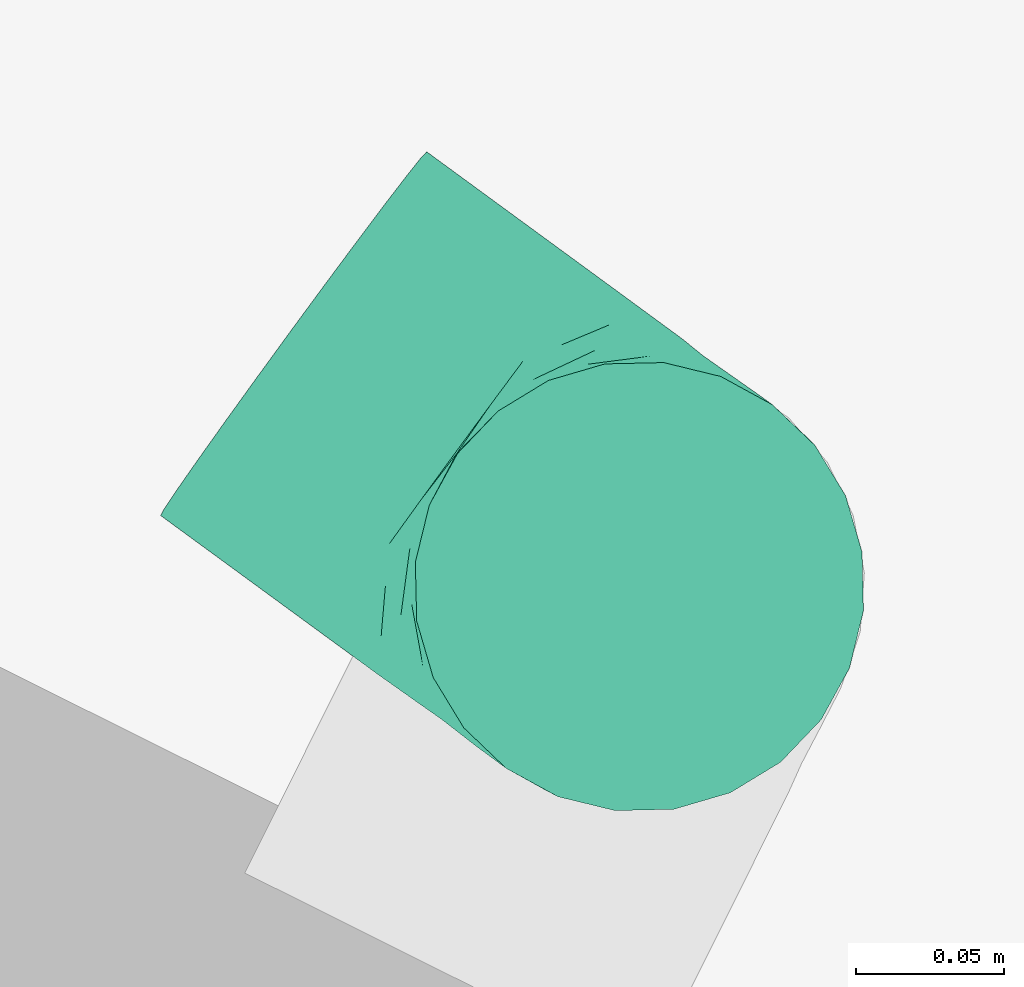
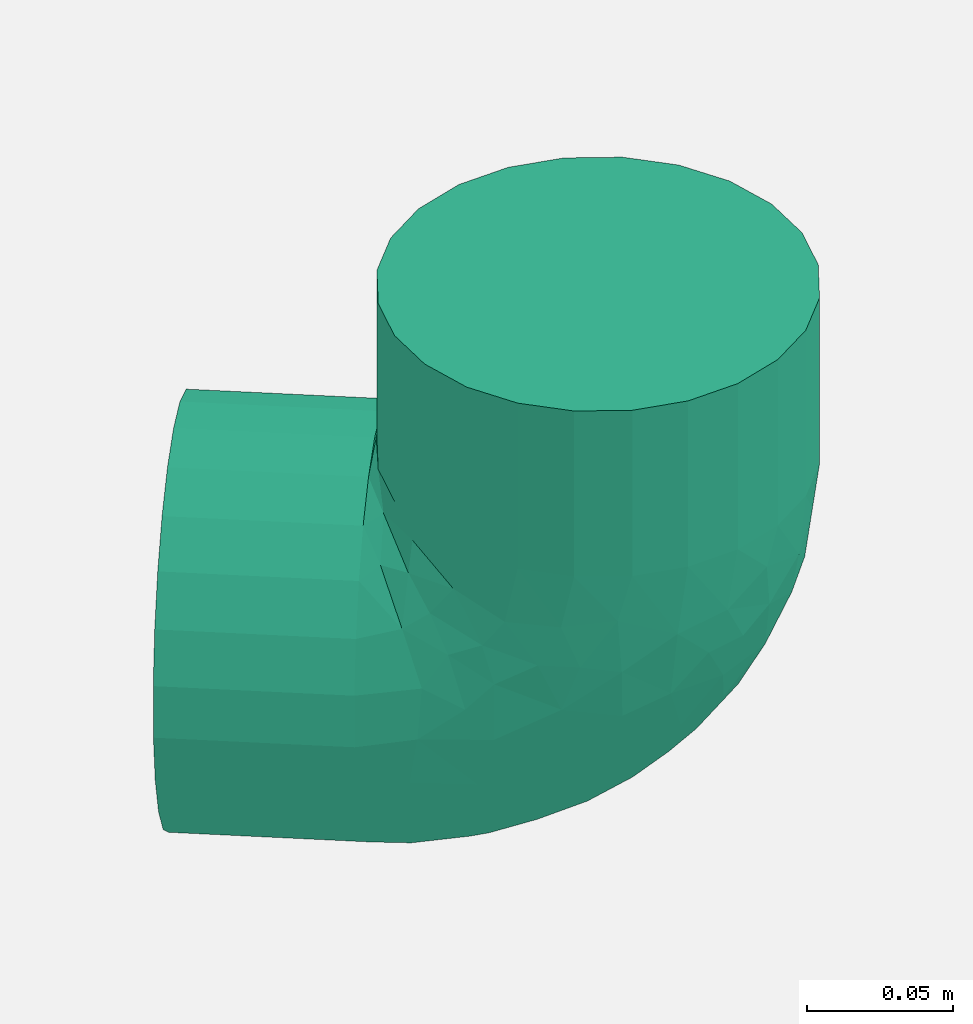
# One storey, part 86 of 91: 1 flow fitting.
"""IFC2X3 building model written with IfcOpenShell, lengths in metres."""

from ifc_helpers import new_model, entity, si_unit, converted_unit, derived_unit, direction, frame, origin, place, context, subcontext, project, spatial, faceted_brep, source, transform, mapped, type_object, type_shapes, element, save


model = new_model("IFC2X3")

# Units and contexts
model_context = context("Model", 3, precision=1e-05, world=origin(), true_north=direction((0.894925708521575, 0.446215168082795)))
context_of_model = context(None, 3, precision=1e-05, world=origin(), true_north=direction((0.894925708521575, 0.446215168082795)))
body_context = subcontext(model_context, "Body", "Model", "MODEL_VIEW")
ifc_project = project(units=[si_unit("LENGTHUNIT", "METRE"), si_unit("AREAUNIT", "SQUARE_METRE"), si_unit("VOLUMEUNIT", "CUBIC_METRE"), converted_unit("PLANEANGLEUNIT", "DEGREE", entity("IfcRatioMeasure", 0.0174532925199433), si_unit("PLANEANGLEUNIT", "RADIAN"), dimensions=[0, 0, 0, 0, 0, 0, 0]), si_unit("MASSUNIT", "GRAM", prefix="KILO"), si_unit("TIMEUNIT", "SECOND"), si_unit("FREQUENCYUNIT", "HERTZ"), si_unit("THERMODYNAMICTEMPERATUREUNIT", "DEGREE_CELSIUS"), derived_unit("THERMALTRANSMITTANCEUNIT", [(si_unit("MASSUNIT", "GRAM", prefix="KILO"), 1), (si_unit("THERMODYNAMICTEMPERATUREUNIT", "KELVIN"), -1), (si_unit("TIMEUNIT", "SECOND"), -3)]), derived_unit("VOLUMETRICFLOWRATEUNIT", [(si_unit("LENGTHUNIT", "METRE"), 3), (si_unit("TIMEUNIT", "SECOND"), -1)]), si_unit("ELECTRICCURRENTUNIT", "AMPERE"), si_unit("ELECTRICVOLTAGEUNIT", "VOLT"), si_unit("POWERUNIT", "WATT"), si_unit("FORCEUNIT", "NEWTON", prefix="KILO"), si_unit("ILLUMINANCEUNIT", "LUX"), si_unit("LUMINOUSFLUXUNIT", "LUMEN"), si_unit("LUMINOUSINTENSITYUNIT", "CANDELA"), si_unit("PRESSUREUNIT", "PASCAL")], contexts=[model_context, context_of_model])

# Site, building, storey
site_placement = place(None, frame((218.228324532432, 584.720189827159, 0.0), z_axis=(0.0, 0.0, 1.0), x_axis=(0.446215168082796, 0.894925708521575, 0.0)))
site = spatial("IfcSite", under=ifc_project, at=site_placement, Name="Default", CompositionType="ELEMENT")
building_placement = place(site_placement, origin())
building = spatial("IfcBuilding", under=site, at=building_placement, CompositionType="ELEMENT")
storey_placement = place(building_placement, origin())
storey = spatial("IfcBuildingStorey", under=building, at=storey_placement, Name="0 - Piano Terra", CompositionType="ELEMENT", Elevation=0.0)

# Flow fitting
pipe_fitting_type = type_object("IfcPipeFittingType", Name="Standard", PredefinedType="NOTDEFINED")
shared_shape = source(origin(), body_context, "Body", "Brep", [
    faceted_brep([(-0.1449299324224, 0.0197274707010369, -0.073623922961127), (-0.144929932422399, 0.0, -0.0762210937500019), (-0.144929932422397, -0.0197274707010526, -0.0736239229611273), (-0.144929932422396, -0.0381105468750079, -0.0660094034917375), (-0.144929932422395, -0.0538964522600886, -0.0538964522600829), (-0.144929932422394, -0.0660094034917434, -0.0381105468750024), (-0.144929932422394, -0.0736239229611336, -0.0197274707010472), (-0.144929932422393, -0.0762210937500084, 0.0), (-0.144929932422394, -0.0736239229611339, 0.0197274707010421), (-0.144929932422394, -0.0660094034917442, 0.0381105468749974), (-0.144929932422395, -0.0538964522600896, 0.0538964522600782), (-0.144929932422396, -0.0381105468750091, 0.0660094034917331), (-0.144929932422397, -0.0197274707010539, 0.0736239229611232), (-0.144929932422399, 0.0, 0.0762210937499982), (-0.1449299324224, 0.0197274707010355, 0.0736239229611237), (-0.144929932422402, 0.0381105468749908, 0.0660094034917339), (-0.144929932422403, 0.0538964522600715, 0.0538964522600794), (-0.144929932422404, 0.0660094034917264, 0.0381105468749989), (-0.144929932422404, 0.0736239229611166, 0.0197274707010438), (-0.144929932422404, 0.0762210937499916, 0.0), (-0.144929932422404, 0.073623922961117, -0.0197274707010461), (-0.144929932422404, 0.0660094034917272, -0.0381105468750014), (-0.144929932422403, 0.0538964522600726, -0.0538964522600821), (-0.144929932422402, 0.0381105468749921, -0.0660094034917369), (-0.0756822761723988, -0.073623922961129, 0.0197274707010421), (-0.0756822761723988, -0.0660094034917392, 0.0381105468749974), (-0.0756822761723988, -0.0762210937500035, 0.0), (-0.0756822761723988, -0.0538964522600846, 0.0538964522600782), (-0.0756822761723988, -0.0381105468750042, 0.0660094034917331), (-0.0756822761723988, -0.019727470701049, 0.0736239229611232), (-0.0756822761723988, 0.0, 0.0762210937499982), (-0.0756822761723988, 0.0197274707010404, 0.0736239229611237), (-0.0756822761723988, 0.0381105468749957, 0.0660094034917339), (-0.0756822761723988, 0.0538964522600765, 0.0538964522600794), (-0.0756822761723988, 0.0660094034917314, 0.0381105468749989), (-0.0756822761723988, 0.0736239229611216, 0.0197274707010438), (-0.0756822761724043, 0.0762210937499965, 0.0), (-0.0756822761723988, 0.0736239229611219, -0.0197274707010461), (-0.0756822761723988, 0.0660094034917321, -0.0381105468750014), (-0.0756822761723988, 0.0538964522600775, -0.0538964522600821), (-0.0756822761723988, 0.038110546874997, -0.0660094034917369), (-0.0756822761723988, 0.0197274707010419, -0.073623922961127), (-0.0756822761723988, 0.0, -0.0762210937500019), (-0.0756822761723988, -0.0197274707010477, -0.0736239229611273), (-0.0756822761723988, -0.038110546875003, -0.0660094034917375), (-0.0756822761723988, -0.0538964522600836, -0.0538964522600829), (-0.0756822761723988, -0.0660094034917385, -0.0381105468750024), (-0.0756822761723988, -0.0736239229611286, -0.0197274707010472), (-0.0508814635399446, -0.0505055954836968, 0.0548797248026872), (-0.0568391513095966, -0.073768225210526, 0.0), (-0.0521238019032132, -0.0713945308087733, 0.0210640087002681), (-0.0539831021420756, 0.00450029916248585, 0.0762096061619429), (-0.0336638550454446, -0.054822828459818, 0.0452216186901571), (-0.0334080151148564, -0.0441001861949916, 0.0564044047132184), (-0.0364526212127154, -0.0711144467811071, 0.0), (-0.0118695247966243, 0.0378480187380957, 0.0761910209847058), (-0.00357155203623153, 0.0542034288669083, 0.0762085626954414), (-0.02323820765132, 0.0535907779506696, 0.0736639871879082), (-0.0609806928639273, -0.0626716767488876, 0.0422447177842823), (0.0513859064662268, 0.049992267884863, 0.0548797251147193), (0.0554019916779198, 0.0327019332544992, 0.0452216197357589), (0.0636222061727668, 0.0401602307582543, 0.0361885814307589), (-0.0597243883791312, 0.0427881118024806, 0.065337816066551), (-0.0523623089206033, 0.0241444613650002, 0.0737554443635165), (-0.0472506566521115, -0.0345528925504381, 0.066004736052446), (-0.0570251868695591, -0.0148351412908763, 0.0743666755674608), (-0.0318074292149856, -0.0682517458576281, 0.0149881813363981), (-0.0412644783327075, -0.0629116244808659, 0.0361885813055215), (-0.03411068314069, -0.0159433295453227, 0.0720683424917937), (-0.0276203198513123, 0.00550012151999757, 0.0756699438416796), (-0.0181451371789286, -0.0636246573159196, 0.0), (0.000135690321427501, -0.0528628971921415, 0.0206401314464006), (0.0132580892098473, -0.0438907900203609, 0.0216545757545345), (-0.000892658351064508, -0.0475117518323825, 0.0339456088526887), (-0.0372898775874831, 0.0177412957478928, 0.0759524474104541), (-0.0367839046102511, 0.0763358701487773, 0.0660094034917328), (-0.0417409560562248, 0.060573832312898, 0.0653075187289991), (-0.0688232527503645, 0.0700350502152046, 0.0359155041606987), (-0.0187376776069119, -0.0316698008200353, 0.0610132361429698), (-0.0751259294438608, 0.0764487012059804, 0.0), (-0.0685583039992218, 0.0585252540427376, 0.0503763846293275), (0.0210453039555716, 0.0753264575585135, 0.0736239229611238), (0.0158281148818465, 0.0567575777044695, 0.0743666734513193), (0.0353722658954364, 0.0466404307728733, 0.0660047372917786), (-0.0722918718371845, 0.0769556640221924, 0.0197274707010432), (-0.0184036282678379, 0.0760150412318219, 0.0736239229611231), (-0.00264934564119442, -0.0401606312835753, 0.0456253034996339), (-0.017000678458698, -0.0479768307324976, 0.0456129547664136), (-0.0433191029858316, 0.0373174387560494, 0.071722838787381), (-0.0141748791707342, -0.0076156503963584, 0.0710462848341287), (0.060145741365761, 0.0135627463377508, 0.0222436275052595), (0.0687964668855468, 0.0306114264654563, 0.0149881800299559), (0.0394255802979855, 0.0750056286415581, 0.0660094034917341), (0.0552090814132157, 0.0747301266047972, 0.0538964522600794), (0.0637263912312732, 0.0598776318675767, 0.0422447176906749), (0.0673201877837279, 0.0745187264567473, 0.0381105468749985), (0.0319920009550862, 0.0181821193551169, 0.0610132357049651), (0.0165362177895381, 0.0338272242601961, 0.0720683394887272), (0.0722933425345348, 0.0508698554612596, 0.0210640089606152), (0.0749335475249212, 0.0743858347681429, 0.0197274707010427), (-0.0270936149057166, 0.0287570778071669, 0.0757418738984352), (0.0747489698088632, 0.0555430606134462, 0.0), (-0.0525674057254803, 0.0766113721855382, 0.0538964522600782), (-0.00624604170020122, -0.0195065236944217, 0.0636796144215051), (0.0103763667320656, -0.0304317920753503, 0.0461688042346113), (0.00950715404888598, -0.0186632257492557, 0.0565614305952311), (-0.058338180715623, 0.0593653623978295, 0.0554755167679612), (-0.0573198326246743, 0.0695692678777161, 0.0503763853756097), (-0.0313439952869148, 0.043040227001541, 0.0732260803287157), (-0.0500907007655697, 0.0497553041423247, 0.0651116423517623), (-0.0748886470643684, 0.0770009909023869, 0.0), (0.0499827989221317, -0.00693481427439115, 0.0178072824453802), (0.0561234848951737, -0.00114201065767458, 0.0), (0.00132083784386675, 0.0756707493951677, 0.0762210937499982), (-0.00418640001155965, 0.0187286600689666, 0.0746842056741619), (-0.0646785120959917, 0.0768227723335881, 0.0381105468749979), (0.0482662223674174, 0.0161607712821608, 0.0456129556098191), (0.044766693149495, 0.0327541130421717, 0.0563654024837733), (0.00016234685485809, -0.0561348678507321, 0.0), (-0.0146103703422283, -0.0598998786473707, 0.0222436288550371), (0.0717398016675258, 0.0352059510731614, 0.0), (0.0639316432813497, 0.0170319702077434, 0.0), (0.00260887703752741, 0.037330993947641, 0.0754578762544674), (0.0317222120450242, -0.0322807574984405, 0.0), (0.0264754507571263, -0.0317547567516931, 0.0244104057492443), (0.0380074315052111, -0.0237872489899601, 0.0139841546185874), (0.0149163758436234, -0.0365766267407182, 0.0338709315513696), (0.0368606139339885, -0.0175866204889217, 0.0301448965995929), (0.0336820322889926, -0.00368895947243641, 0.0483745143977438), (0.0468191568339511, -0.000789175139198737, 0.0342231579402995), (0.0158749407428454, 0.0125286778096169, 0.0677242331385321), (0.00587106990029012, -0.00597445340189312, 0.0652848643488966), (0.0217024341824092, -0.00146025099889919, 0.0591650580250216), (0.0229097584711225, -0.0179199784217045, 0.0471930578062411), (0.077530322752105, 0.0743405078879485, 0.0), (0.0439228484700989, -0.0167113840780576, 0.0), (0.0159422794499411, -0.0442078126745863, 0.0), (-0.0531770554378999, 0.0241699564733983, -0.0736639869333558), (-0.000892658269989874, -0.0475117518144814, -0.033945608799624), (0.00013569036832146, -0.0528628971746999, -0.0206401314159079), (-0.0146103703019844, -0.0598998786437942, -0.0222436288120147), (-0.0570251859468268, -0.0148351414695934, -0.0743666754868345), (0.0319919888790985, 0.0181821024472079, -0.0610132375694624), (0.0482662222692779, 0.0161607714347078, -0.0456129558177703), (0.0336820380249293, -0.00368895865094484, -0.048374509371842), (-0.0541328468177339, 0.00451698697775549, -0.07620856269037), (-0.0187376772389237, -0.0316698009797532, -0.0610132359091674), (-0.0170006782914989, -0.0479768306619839, -0.0456129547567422), (-0.0335304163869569, -0.0441882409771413, -0.0563654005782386), (-0.0688232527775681, 0.0700350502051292, -0.035915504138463), (-0.0722918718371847, 0.0769556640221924, -0.019727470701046), (0.0165362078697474, 0.0338272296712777, -0.0720683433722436), (0.0353722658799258, 0.0466404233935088, -0.066004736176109), (-0.06855830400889, 0.0585252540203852, -0.0503763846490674), (-0.0184036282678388, 0.0760150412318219, -0.0736239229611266), (-0.0232269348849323, 0.0527757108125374, -0.0737554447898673), (-0.0367839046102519, 0.0763358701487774, -0.0660094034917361), (-0.0583381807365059, 0.0593653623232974, -0.0554755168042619), (-0.00501725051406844, 0.0277121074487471, -0.0756699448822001), (-0.0282798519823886, 0.0275913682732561, -0.0757418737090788), (-0.0170878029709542, 0.0375938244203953, -0.0759524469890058), (-0.0336638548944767, -0.0548228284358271, -0.045221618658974), (-0.0412644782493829, -0.0629116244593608, -0.0361885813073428), (-0.0186527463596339, 0.00451262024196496, -0.07468420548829), (-0.052123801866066, -0.0713945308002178, -0.0210640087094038), (-0.0598361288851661, 0.0427917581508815, -0.0653075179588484), (-0.00355748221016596, 0.0540534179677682, -0.0762096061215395), (-0.0508814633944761, -0.0505055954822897, -0.0548797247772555), (-0.0472506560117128, -0.0345528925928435, -0.0660047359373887), (-0.0318074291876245, -0.0682517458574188, -0.0149881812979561), (-0.0376351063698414, 0.0125282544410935, -0.0761910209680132), (-0.0609806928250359, -0.0626716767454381, -0.0422447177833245), (0.00132083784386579, 0.0756707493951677, -0.0762210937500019), (0.0687964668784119, 0.0306114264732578, -0.0149881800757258), (0.0394255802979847, 0.0750056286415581, -0.0660094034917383), (0.055209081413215, 0.0747301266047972, -0.0538964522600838), (0.0513859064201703, 0.0499922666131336, -0.0548797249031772), (0.0158281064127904, 0.0567575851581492, -0.0743666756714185), (0.0749335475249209, 0.0743858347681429, -0.0197274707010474), (0.0722933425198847, 0.0508698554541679, -0.0210640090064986), (0.0673201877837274, 0.0745187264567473, -0.0381105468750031), (-0.0341106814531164, -0.0159433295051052, -0.072068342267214), (-0.0646785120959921, 0.0768227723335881, -0.0381105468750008), (-0.052567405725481, 0.0766113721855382, -0.0538964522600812), (-0.0573198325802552, 0.0695692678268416, -0.0503763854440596), (0.049982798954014, -0.00693481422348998, -0.0178072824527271), (0.0380074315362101, -0.0237872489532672, -0.0139841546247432), (-0.041739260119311, 0.0604620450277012, -0.065337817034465), (0.0210453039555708, 0.0753264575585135, -0.0736239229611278), (0.0368606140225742, -0.0175866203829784, -0.0301448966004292), (0.02647545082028, -0.0317547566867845, -0.024410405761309), (0.0636222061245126, 0.0401602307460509, -0.0361885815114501), (0.0637263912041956, 0.0598776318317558, -0.0422447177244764), (-0.036555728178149, 0.043963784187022, -0.0717228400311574), (0.0446765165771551, 0.0326332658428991, -0.0564044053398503), (-0.0424866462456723, 0.0320903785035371, -0.0732260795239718), (-0.0488735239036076, 0.050951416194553, -0.0651116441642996), (0.0554019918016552, 0.0327019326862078, -0.0452216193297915), (0.0601457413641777, 0.0135627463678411, -0.0222436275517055), (-0.037370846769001, -0.00195696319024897, -0.0754578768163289), (0.0132580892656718, -0.0438907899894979, -0.0216545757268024), (-0.00264934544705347, -0.0401606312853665, -0.0456253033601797), (0.00133177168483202, -0.0223844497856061, -0.0586104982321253), (0.0149163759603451, -0.0365766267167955, -0.0338709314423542), (0.0468191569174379, -0.0007891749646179, -0.0342231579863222), (-0.0128038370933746, -0.0156538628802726, -0.0677242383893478), (0.0196125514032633, 0.00590465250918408, -0.0636796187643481), (0.0183571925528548, -0.0125837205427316, -0.0548990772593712), (0.0260833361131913, -0.0196038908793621, -0.0424421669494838), (0.00786186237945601, 0.0140398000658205, -0.0710462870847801), (0.00587107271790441, -0.0059744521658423, -0.065284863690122), (0.0103763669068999, -0.0304317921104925, -0.0461688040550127), (0.00252937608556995, 0.144907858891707, -0.0762210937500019), (-0.0171950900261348, 0.145252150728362, -0.0736239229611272), (-0.0355753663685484, 0.145572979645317, -0.0660094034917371), (-0.0513588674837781, 0.145848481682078, -0.0538964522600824), (-0.0634699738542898, 0.146059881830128, -0.0381105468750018), (-0.0710833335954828, 0.146192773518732, -0.0197274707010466), (-0.0736801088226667, 0.146238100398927, 0.0), (-0.0710833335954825, 0.146192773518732, 0.0197274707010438), (-0.0634699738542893, 0.146059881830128, 0.0381105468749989), (-0.0513588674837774, 0.145848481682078, 0.0538964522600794), (-0.0355753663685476, 0.145572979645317, 0.0660094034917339), (-0.0171950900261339, 0.145252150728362, 0.0736239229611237), (0.00252937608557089, 0.144907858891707, 0.0762210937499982), (0.0222538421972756, 0.144563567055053, 0.0736239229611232), (0.0406341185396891, 0.144242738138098, 0.0660094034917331), (0.0564176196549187, 0.143967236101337, 0.0538964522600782), (0.0685287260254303, 0.143755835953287, 0.0381105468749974), (0.0761420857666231, 0.143622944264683, 0.0197274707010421), (0.0787388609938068, 0.143577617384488, 0.0), (0.0761420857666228, 0.143622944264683, -0.0197274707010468), (0.0685287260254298, 0.143755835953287, -0.038110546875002), (0.056417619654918, 0.143967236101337, -0.0538964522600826), (0.0406341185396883, 0.144242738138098, -0.0660094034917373), (0.0222538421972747, 0.144563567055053, -0.0736239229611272)], [[[0, 1, 2, 3, 4, 5, 6, 7, 8, 9, 10, 11, 12, 13, 14, 15, 16, 17, 18, 19, 20, 21, 22, 23]], [[24, 25, 9, 8]], [[26, 24, 8, 7]], [[11, 10, 27, 28]], [[25, 27, 10, 9]], [[29, 12, 11, 28]], [[29, 30, 13, 12]], [[15, 14, 31, 32]], [[33, 16, 15, 32]], [[18, 17, 34, 35]], [[33, 34, 17, 16]], [[19, 18, 35, 36]], [[31, 14, 13, 30]], [[20, 19, 36, 37]], [[38, 21, 20, 37]], [[23, 22, 39, 40]], [[38, 39, 22, 21]], [[0, 23, 40, 41]], [[41, 42, 1, 0]], [[3, 2, 43, 44]], [[45, 4, 3, 44]], [[6, 5, 46, 47]], [[45, 46, 5, 4]], [[7, 6, 47, 26]], [[43, 2, 1, 42]], [[28, 27, 48]], [[49, 50, 24]], [[31, 30, 51]], [[52, 53, 48]], [[54, 50, 49]], [[55, 56, 57]], [[58, 27, 25]], [[59, 60, 61]], [[62, 32, 63]], [[28, 48, 64]], [[65, 30, 29]], [[50, 66, 67]], [[51, 68, 69]], [[70, 66, 54]], [[71, 72, 73]], [[51, 69, 74]], [[64, 68, 65]], [[32, 62, 33]], [[63, 31, 51]], [[75, 76, 57]], [[29, 28, 64]], [[34, 77, 35]], [[64, 53, 78]], [[79, 36, 35]], [[33, 80, 34]], [[81, 82, 83]], [[84, 79, 35]], [[85, 57, 56]], [[86, 78, 87]], [[63, 74, 88]], [[24, 50, 25]], [[68, 89, 69]], [[61, 90, 91]], [[92, 59, 93]], [[93, 94, 95]], [[92, 81, 83]], [[96, 83, 97]], [[98, 99, 95]], [[69, 100, 74]], [[83, 59, 92]], [[60, 90, 61]], [[98, 101, 99]], [[75, 102, 76]], [[103, 104, 105]], [[62, 63, 88]], [[77, 106, 107]], [[65, 51, 30]], [[35, 77, 84]], [[108, 76, 109]], [[110, 79, 84]], [[90, 111, 112]], [[56, 113, 85]], [[31, 63, 32]], [[100, 69, 114]], [[78, 68, 64]], [[102, 115, 107]], [[85, 75, 57]], [[96, 116, 117]], [[118, 119, 70]], [[113, 82, 81]], [[58, 50, 67]], [[80, 62, 106]], [[94, 98, 95]], [[120, 91, 121]], [[107, 76, 102]], [[109, 62, 88]], [[57, 108, 55]], [[56, 122, 82]], [[117, 59, 83]], [[94, 59, 61]], [[58, 48, 27]], [[52, 48, 67]], [[77, 34, 80]], [[115, 84, 77]], [[66, 50, 54]], [[123, 124, 72]], [[52, 119, 87]], [[125, 124, 123]], [[73, 72, 126]], [[125, 111, 127]], [[116, 96, 128]], [[121, 90, 112]], [[98, 91, 120]], [[111, 129, 127]], [[97, 130, 96]], [[103, 105, 131]], [[104, 86, 126]], [[89, 103, 131]], [[124, 126, 72]], [[129, 128, 127]], [[96, 130, 132]], [[128, 132, 133]], [[70, 119, 66]], [[67, 66, 119]], [[61, 91, 98]], [[90, 121, 91]], [[24, 26, 49]], [[101, 98, 120]], [[101, 134, 99]], [[131, 130, 114]], [[114, 69, 89]], [[55, 122, 56]], [[56, 82, 113]], [[83, 82, 97]], [[64, 65, 29]], [[51, 65, 68]], [[129, 90, 116]], [[111, 125, 135]], [[135, 125, 123]], [[135, 112, 111]], [[124, 125, 127]], [[133, 126, 124]], [[71, 136, 72]], [[133, 124, 127]], [[73, 86, 87]], [[87, 119, 73]], [[71, 73, 119]], [[119, 118, 71]], [[114, 130, 97]], [[90, 129, 111]], [[128, 129, 116]], [[108, 88, 100]], [[62, 109, 106]], [[108, 109, 88]], [[76, 106, 109]], [[126, 86, 73]], [[86, 104, 103]], [[100, 114, 55]], [[122, 114, 97]], [[114, 122, 55]], [[82, 122, 97]], [[103, 68, 78]], [[114, 89, 131]], [[68, 103, 89]], [[103, 78, 86]], [[133, 105, 104]], [[105, 133, 132]], [[126, 133, 104]], [[127, 128, 133]], [[55, 108, 100]], [[76, 108, 57]], [[77, 107, 115]], [[76, 107, 106]], [[62, 80, 33]], [[77, 80, 106]], [[50, 58, 25]], [[48, 58, 67]], [[59, 94, 93]], [[98, 94, 61]], [[96, 117, 83]], [[60, 117, 116]], [[117, 60, 59]], [[90, 60, 116]], [[119, 52, 67]], [[53, 52, 87]], [[78, 53, 87]], [[48, 53, 64]], [[136, 71, 118]], [[136, 123, 72]], [[132, 130, 131]], [[105, 132, 131]], [[96, 132, 128]], [[88, 74, 100]], [[51, 74, 63]], [[41, 40, 137]], [[138, 139, 140]], [[43, 42, 141]], [[142, 143, 144]], [[42, 41, 145]], [[146, 147, 148]], [[149, 37, 150]], [[142, 151, 152]], [[38, 153, 39]], [[154, 155, 156]], [[157, 153, 149]], [[158, 159, 160]], [[161, 140, 162]], [[163, 159, 158]], [[46, 164, 47]], [[40, 39, 165]], [[164, 49, 47]], [[166, 151, 158]], [[167, 44, 168]], [[167, 161, 162]], [[140, 169, 162]], [[44, 43, 168]], [[170, 145, 137]], [[171, 46, 45]], [[154, 172, 166]], [[45, 44, 167]], [[121, 173, 120]], [[174, 175, 176]], [[37, 36, 79]], [[54, 169, 70]], [[79, 110, 150]], [[177, 166, 172]], [[38, 37, 149]], [[178, 179, 180]], [[146, 168, 181]], [[182, 183, 184]], [[155, 154, 166]], [[185, 135, 186]], [[158, 160, 166]], [[152, 151, 177]], [[165, 137, 40]], [[187, 183, 156]], [[188, 174, 152]], [[188, 177, 172]], [[189, 186, 190]], [[43, 141, 168]], [[178, 134, 101]], [[173, 191, 179]], [[192, 175, 180]], [[174, 176, 152]], [[179, 178, 101]], [[187, 155, 193]], [[179, 101, 120]], [[152, 194, 142]], [[195, 165, 196]], [[197, 194, 176]], [[41, 137, 145]], [[187, 156, 155]], [[184, 187, 157]], [[150, 37, 79]], [[171, 164, 46]], [[155, 160, 193]], [[112, 198, 121]], [[192, 179, 191]], [[153, 165, 39]], [[196, 187, 193]], [[137, 195, 170]], [[145, 199, 141]], [[148, 167, 168]], [[171, 167, 162]], [[192, 176, 175]], [[197, 176, 191]], [[150, 182, 149]], [[149, 182, 184]], [[70, 140, 118]], [[164, 169, 54]], [[136, 139, 200]], [[201, 138, 147]], [[202, 201, 146]], [[203, 138, 201]], [[198, 185, 204]], [[173, 179, 120]], [[185, 198, 112]], [[197, 198, 143]], [[181, 205, 146]], [[206, 144, 207]], [[146, 205, 202]], [[208, 190, 203]], [[143, 204, 144]], [[209, 206, 210]], [[207, 144, 208]], [[211, 202, 207]], [[162, 169, 164]], [[140, 70, 169]], [[121, 198, 173]], [[191, 173, 198]], [[49, 164, 54]], [[49, 26, 47]], [[151, 209, 158]], [[210, 205, 163]], [[163, 158, 209]], [[170, 199, 145]], [[145, 141, 42]], [[168, 141, 181]], [[152, 177, 188]], [[166, 177, 151]], [[135, 123, 186]], [[204, 185, 189]], [[185, 112, 135]], [[163, 205, 181]], [[185, 186, 189]], [[123, 190, 186]], [[203, 190, 200]], [[203, 200, 138]], [[203, 211, 208]], [[139, 138, 200]], [[140, 147, 138]], [[200, 123, 136]], [[118, 140, 139]], [[144, 204, 189]], [[198, 204, 143]], [[195, 193, 159]], [[187, 196, 157]], [[195, 196, 193]], [[165, 157, 196]], [[146, 201, 147]], [[203, 201, 211]], [[159, 163, 170]], [[199, 163, 181]], [[163, 199, 170]], [[141, 199, 181]], [[206, 151, 142]], [[163, 209, 210]], [[151, 206, 209]], [[144, 206, 142]], [[170, 195, 159]], [[165, 195, 137]], [[149, 153, 38]], [[165, 153, 157]], [[187, 184, 183]], [[149, 184, 157]], [[167, 171, 45]], [[164, 171, 162]], [[179, 192, 180]], [[176, 192, 191]], [[146, 148, 168]], [[161, 148, 147]], [[148, 161, 167]], [[140, 161, 147]], [[198, 197, 191]], [[194, 197, 143]], [[142, 194, 143]], [[176, 194, 152]], [[123, 200, 190]], [[118, 139, 136]], [[202, 205, 210]], [[207, 202, 210]], [[202, 211, 201]], [[206, 207, 210]], [[144, 189, 208]], [[208, 189, 190]], [[211, 207, 208]], [[193, 160, 159]], [[166, 160, 155]], [[212, 213, 214, 215, 216, 217, 218, 219, 220, 221, 222, 223, 224, 225, 226, 227, 228, 229, 230, 231, 232, 233, 234, 235]], [[229, 228, 95, 99]], [[230, 229, 99, 134]], [[92, 93, 227, 226]], [[228, 227, 93, 95]], [[225, 81, 92, 226]], [[225, 224, 113, 81]], [[75, 85, 223, 222]], [[221, 102, 75, 222]], [[84, 115, 220, 219]], [[221, 220, 115, 102]], [[110, 84, 219, 218]], [[223, 85, 113, 224]], [[217, 150, 110, 218]], [[216, 182, 150, 217]], [[214, 213, 154, 156]], [[216, 215, 183, 182]], [[215, 214, 156, 183]], [[154, 213, 212, 172]], [[174, 188, 235, 234]], [[233, 175, 174, 234]], [[178, 180, 232, 231]], [[233, 232, 180, 175]], [[134, 178, 231, 230]], [[235, 188, 172, 212]]]),
])
type_shapes(pipe_fitting_type, [shared_shape])
flow_fitting_placement = place(storey_placement, frame((-68.4824064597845, -3.88584608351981, 8.12250000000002), z_axis=(-0.985733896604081, 0.168311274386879, 0.0), x_axis=(-0.168285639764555, -0.985583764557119, 0.0174524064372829)))
element("IfcFlowFitting", 1, at=flow_fitting_placement, inside=storey, type_object=pipe_fitting_type, Name="M_Gomito - PVC - Sch 40:Standard", ObjectType="Standard", context=body_context, shape_type="MappedRepresentation", body=[
    mapped(shared_shape, transform((0.0, 0.0, 0.0), scale=1.0)),
])

save(model, "model.ifc")
